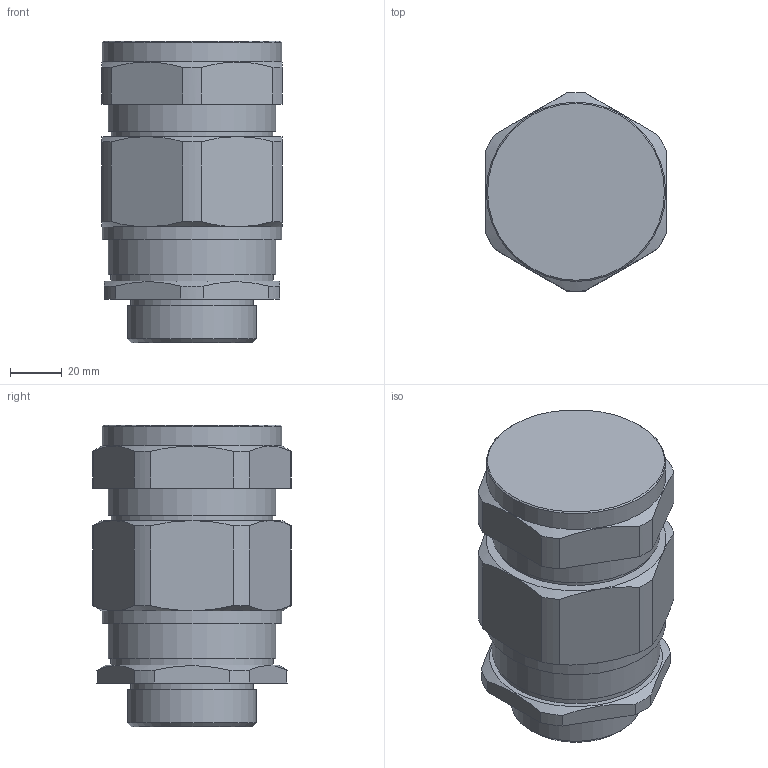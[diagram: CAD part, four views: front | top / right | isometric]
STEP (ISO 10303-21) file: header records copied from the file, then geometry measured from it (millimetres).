
FILE_DESCRIPTION((''),'2;1');
FILE_NAME('D:\WORKS\Модели\КОВ\КОВ52MН.STEP','2021-11-01T09:18:04',('v.v.tulinov'),(''),'Autodesk Inventor 2012','Autodesk Inventor 2012','');
FILE_SCHEMA(('AUTOMOTIVE_DESIGN { 1 0 10303 214 1 1 1 1 }'));
Length unit declared in the file: millimetre
Products named in the file (1): FECA(параметрическая)_Внешний контур_1
Bounding box: 70 x 76.98 x 117 mm (x, y, z)
Volume: 418456 mm3; surface area: 36808.6 mm2
Topology: 1 solids, 1 shells, 71 faces, 166 edges, 106 vertices
Faces by surface type: plane 29, cylinder 26, cone 16
Full cylindrical faces by diameter (mm): 47.5 x1, 50 x1, 62.5 x1, 63 x1, 65 x2, 69.5 x2
Entity records: 2016 total; most frequent: CARTESIAN_POINT 398, DIRECTION 326, ORIENTED_EDGE 302, EDGE_CURVE 151, AXIS2_PLACEMENT_3D 139, VERTEX_POINT 103, EDGE_LOOP 92, STYLED_ITEM 72
